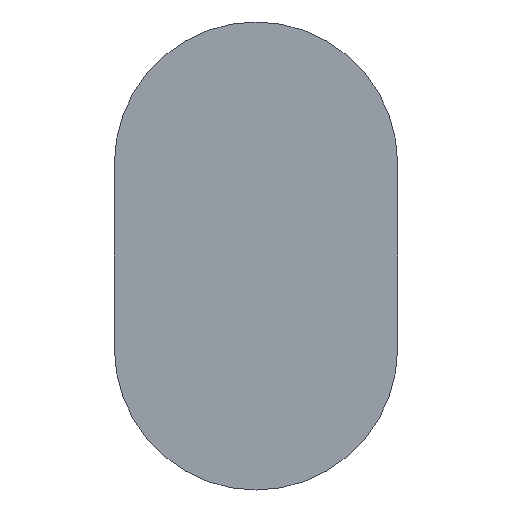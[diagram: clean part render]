
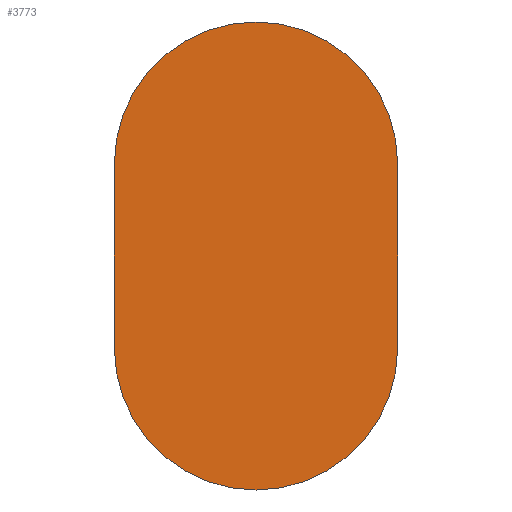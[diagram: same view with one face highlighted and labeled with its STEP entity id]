
A CAD part, front view. The second image highlights one B-rep face of the part: STEP entity #3773.
In plain terms, the highlighted planar face has unit normal (0, -1, 0).
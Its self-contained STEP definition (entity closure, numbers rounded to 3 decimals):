
#96=DIRECTION('',(0.,0.,-1.));
#97=VECTOR('',#96,75.);
#98=CARTESIAN_POINT('',(57.5,53.4,16.5));
#99=LINE('',#98,#97);
#100=CARTESIAN_POINT('',(0.,53.4,-58.5));
#101=DIRECTION('',(0.,1.,0.));
#102=DIRECTION('',(1.,0.,0.));
#103=AXIS2_PLACEMENT_3D('',#100,#101,#102);
#105=DIRECTION('',(0.,0.,1.));
#106=VECTOR('',#105,75.);
#107=CARTESIAN_POINT('',(-57.5,53.4,-58.5));
#108=LINE('',#107,#106);
#109=CARTESIAN_POINT('',(0.,53.4,16.5));
#110=DIRECTION('',(0.,1.,0.));
#111=DIRECTION('',(-1.,0.,0.));
#112=AXIS2_PLACEMENT_3D('',#109,#110,#111);
#3167=CARTESIAN_POINT('',(57.5,53.4,16.5));
#3168=CARTESIAN_POINT('',(57.5,53.4,-58.5));
#3169=VERTEX_POINT('',#3167);
#3170=VERTEX_POINT('',#3168);
#3171=CARTESIAN_POINT('',(-57.5,53.4,-58.5));
#3172=VERTEX_POINT('',#3171);
#3173=CARTESIAN_POINT('',(-57.5,53.4,16.5));
#3174=VERTEX_POINT('',#3173);
#3762=CARTESIAN_POINT('',(0.,53.4,-21.));
#3763=DIRECTION('',(0.,-1.,0.));
#3764=DIRECTION('',(-1.,0.,0.));
#3765=AXIS2_PLACEMENT_3D('',#3762,#3763,#3764);
#3766=PLANE('',#3765);
#3767=ORIENTED_EDGE('',*,*,#3743,.T.);
#3768=ORIENTED_EDGE('',*,*,#3756,.T.);
#3769=ORIENTED_EDGE('',*,*,#3714,.T.);
#3770=ORIENTED_EDGE('',*,*,#3729,.T.);
#3771=EDGE_LOOP('',(#3767,#3768,#3769,#3770));
#3772=FACE_OUTER_BOUND('',#3771,.F.);
#3773=ADVANCED_FACE('',(#3772),#3766,.T.);
#104=CIRCLE('',#103,57.5);
#113=CIRCLE('',#112,57.5);
#3714=EDGE_CURVE('',#3172,#3174,#108,.T.);
#3729=EDGE_CURVE('',#3174,#3169,#113,.T.);
#3743=EDGE_CURVE('',#3169,#3170,#99,.T.);
#3756=EDGE_CURVE('',#3170,#3172,#104,.T.);
